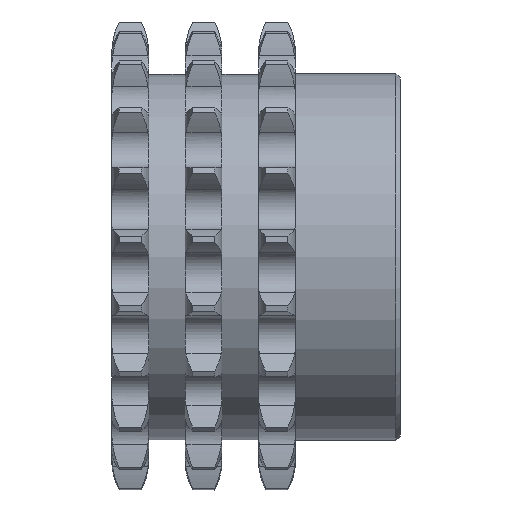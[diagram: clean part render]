
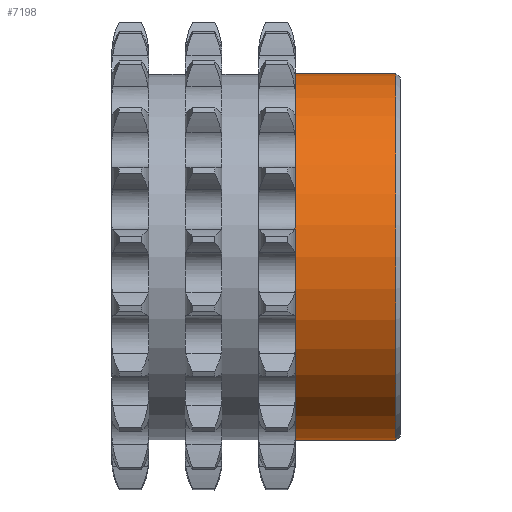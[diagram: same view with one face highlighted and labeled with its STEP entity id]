
A CAD part, top view. The second image highlights one B-rep face of the part: STEP entity #7198.
In plain terms, the highlighted cylindrical face has radius 35 mm (diameter 70 mm), a full revolution.
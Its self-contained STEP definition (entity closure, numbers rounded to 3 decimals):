
#23=FACE_BOUND('',#1332,.T.);
#374=CIRCLE('',#7673,35.);
#545=CIRCLE('',#7973,35.);
#934=FACE_OUTER_BOUND('',#1331,.T.);
#1331=EDGE_LOOP('',(#6403));
#1332=EDGE_LOOP('',(#6404));
#3116=VERTEX_POINT('',#14291);
#3121=VERTEX_POINT('',#14596);
#4092=EDGE_CURVE('',#3116,#3116,#374,.T.);
#4263=EDGE_CURVE('',#3121,#3121,#545,.T.);
#6403=ORIENTED_EDGE('',*,*,#4092,.T.);
#6404=ORIENTED_EDGE('',*,*,#4263,.F.);
#6816=CYLINDRICAL_SURFACE('',#7972,35.);
#7198=ADVANCED_FACE('',(#934,#23),#6816,.T.);
#7673=AXIS2_PLACEMENT_3D('',#14292,#9169,#9170);
#7972=AXIS2_PLACEMENT_3D('',#14595,#9767,#9768);
#7973=AXIS2_PLACEMENT_3D('',#14597,#9769,#9770);
#9169=DIRECTION('center_axis',(1.,0.,0.));
#9170=DIRECTION('ref_axis',(0.,0.,-1.));
#9767=DIRECTION('center_axis',(1.,0.,0.));
#9768=DIRECTION('ref_axis',(0.,1.,0.));
#9769=DIRECTION('center_axis',(1.,0.,0.));
#9770=DIRECTION('ref_axis',(0.,0.,-1.));
#14291=CARTESIAN_POINT('',(18.381,22.381,0.));
#14292=CARTESIAN_POINT('Origin',(18.381,-12.619,0.));
#14595=CARTESIAN_POINT('Origin',(27.981,-12.619,0.));
#14596=CARTESIAN_POINT('',(37.581,22.381,0.));
#14597=CARTESIAN_POINT('Origin',(37.581,-12.619,0.));
